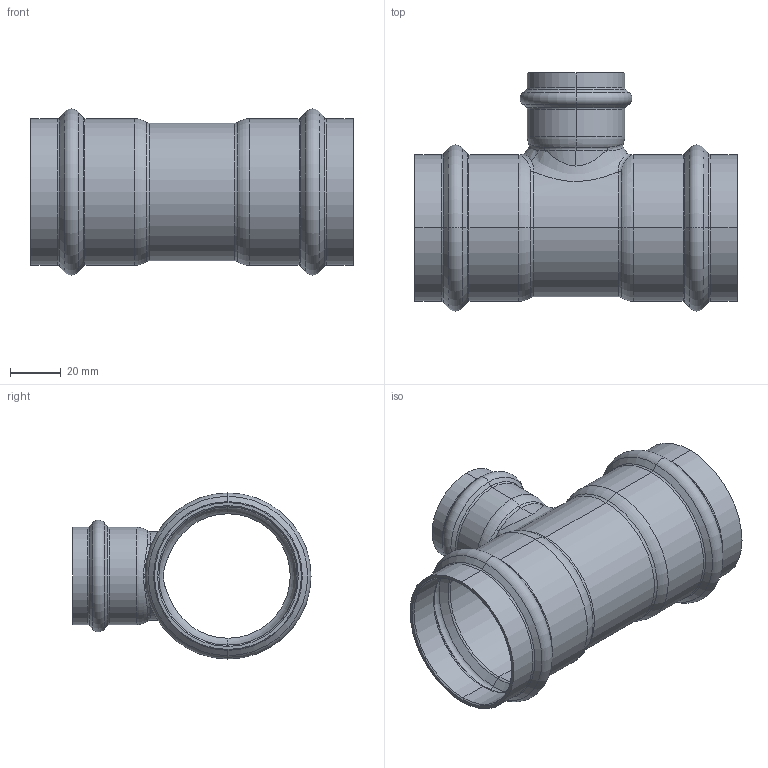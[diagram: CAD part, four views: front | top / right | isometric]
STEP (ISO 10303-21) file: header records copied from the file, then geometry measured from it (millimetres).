
FILE_DESCRIPTION (( 'STEP AP203' ), '1' );
FILE_NAME ('SP5130 Ø54-35-54.STEP', '2017-04-25T15:11:16', ( '' ), ( '' ), 'SwSTEP 2.0', 'SolidWorks 2016', '' );
FILE_SCHEMA (( 'CONFIG_CONTROL_DESIGN' ));
Length unit declared in the file: millimetre
Products named in the file (1): SP5130 Ø54-35-54
Bounding box: 127 x 93.7 x 65.4 mm (x, y, z)
Volume: 49694.1 mm3; surface area: 54813.5 mm2
Topology: 1 solids, 1 shells, 133 faces, 282 edges, 150 vertices
Faces by surface type: torus 57, cylinder 35, cone 30, bspline 8, plane 3
Entity records: 5412 total; most frequent: CARTESIAN_POINT 2441, DIRECTION 701, ORIENTED_EDGE 564, AXIS2_PLACEMENT_3D 320, EDGE_CURVE 282, CIRCLE 194, VERTEX_POINT 150, EDGE_LOOP 136
